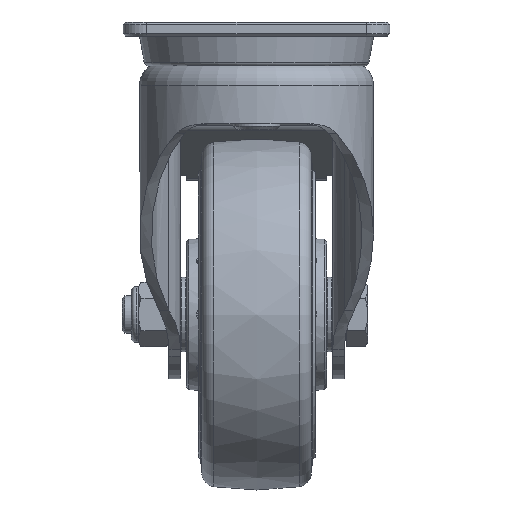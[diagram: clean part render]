
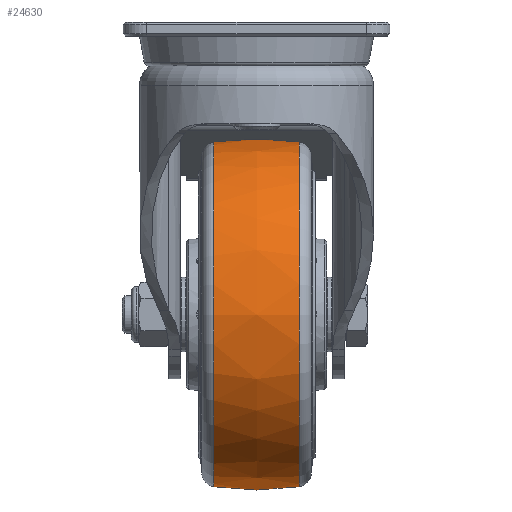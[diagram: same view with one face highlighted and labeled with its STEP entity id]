
A CAD part, left-side view. The second image highlights one B-rep face of the part: STEP entity #24630.
In plain terms, the highlighted free-form (B-spline) face has degree [2, 2] with [3, 9] control points.
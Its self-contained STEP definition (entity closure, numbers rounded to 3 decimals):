
#24=(
BOUNDED_SURFACE()
B_SPLINE_SURFACE(2,2,((#41724,#41725,#41726,#41727,#41728,#41729,#41730,
#41731,#41732),(#41733,#41734,#41735,#41736,#41737,#41738,#41739,#41740,
#41741),(#41742,#41743,#41744,#41745,#41746,#41747,#41748,#41749,#41750)),
 .UNSPECIFIED.,.F.,.T.,.F.)
B_SPLINE_SURFACE_WITH_KNOTS((3,3),(3,2,2,2,3),(-0.153,0.153),
(-3.142,-1.571,0.,1.571,3.142),
 .UNSPECIFIED.)
GEOMETRIC_REPRESENTATION_ITEM()
RATIONAL_B_SPLINE_SURFACE(((1.,0.707,1.,0.707,1.,
0.707,1.,0.707,1.),(0.988,0.699,
0.988,0.699,0.988,0.699,0.988,
0.699,0.988),(1.,0.707,1.,0.707,
1.,0.707,1.,0.707,1.)))
REPRESENTATION_ITEM('')
SURFACE()
);
#2440=CIRCLE('',#26361,73.595);
#2444=CIRCLE('',#26365,73.595);
#2445=CIRCLE('',#26366,120.);
#4178=FACE_OUTER_BOUND('',#5790,.T.);
#5790=EDGE_LOOP('',(#20001,#20002,#20003,#20004));
#10954=VERTEX_POINT('',#41717);
#10957=VERTEX_POINT('',#41751);
#14047=EDGE_CURVE('',#10954,#10954,#2440,.T.);
#14051=EDGE_CURVE('',#10957,#10957,#2444,.T.);
#14052=EDGE_CURVE('',#10957,#10954,#2445,.T.);
#20001=ORIENTED_EDGE('',*,*,#14051,.F.);
#20002=ORIENTED_EDGE('',*,*,#14052,.T.);
#20003=ORIENTED_EDGE('',*,*,#14047,.F.);
#20004=ORIENTED_EDGE('',*,*,#14052,.F.);
#24630=ADVANCED_FACE('',(#4178),#24,.F.);
#26361=AXIS2_PLACEMENT_3D('',#41718,#30584,#30585);
#26365=AXIS2_PLACEMENT_3D('',#41752,#30592,#30593);
#26366=AXIS2_PLACEMENT_3D('',#41753,#30594,#30595);
#30584=DIRECTION('center_axis',(0.,-1.,0.));
#30585=DIRECTION('ref_axis',(0.,0.,
-1.));
#30592=DIRECTION('center_axis',(0.,1.,0.));
#30593=DIRECTION('ref_axis',(0.,0.,
-1.));
#30594=DIRECTION('center_axis',(0.,0.,
-1.));
#30595=DIRECTION('ref_axis',(1.,0.,0.));
#41717=CARTESIAN_POINT('',(138.595,-18.309,-125.025));
#41718=CARTESIAN_POINT('Origin',(65.,-18.309,-125.025));
#41724=CARTESIAN_POINT('Ctrl Pts',(138.595,-18.309,-125.025));
#41725=CARTESIAN_POINT('Ctrl Pts',(138.595,-18.309,-198.62));
#41726=CARTESIAN_POINT('Ctrl Pts',(65.,-18.309,-198.62));
#41727=CARTESIAN_POINT('Ctrl Pts',(-8.595,-18.309,
-198.62));
#41728=CARTESIAN_POINT('Ctrl Pts',(-8.595,-18.309,
-125.025));
#41729=CARTESIAN_POINT('Ctrl Pts',(-8.595,-18.309,
-51.43));
#41730=CARTESIAN_POINT('Ctrl Pts',(65.,-18.309,-51.43));
#41731=CARTESIAN_POINT('Ctrl Pts',(138.595,-18.309,-51.43));
#41732=CARTESIAN_POINT('Ctrl Pts',(138.595,-18.309,-125.025));
#41733=CARTESIAN_POINT('Ctrl Pts',(141.422,0.,
-125.025));
#41734=CARTESIAN_POINT('Ctrl Pts',(141.422,0.,
-201.447));
#41735=CARTESIAN_POINT('Ctrl Pts',(65.,0.,-201.447));
#41736=CARTESIAN_POINT('Ctrl Pts',(-11.422,0.,
-201.447));
#41737=CARTESIAN_POINT('Ctrl Pts',(-11.422,0.,
-125.025));
#41738=CARTESIAN_POINT('Ctrl Pts',(-11.422,0.,
-48.603));
#41739=CARTESIAN_POINT('Ctrl Pts',(65.,0.,-48.603));
#41740=CARTESIAN_POINT('Ctrl Pts',(141.422,0.,
-48.603));
#41741=CARTESIAN_POINT('Ctrl Pts',(141.422,0.,
-125.025));
#41742=CARTESIAN_POINT('Ctrl Pts',(138.595,18.309,-125.025));
#41743=CARTESIAN_POINT('Ctrl Pts',(138.595,18.309,-198.62));
#41744=CARTESIAN_POINT('Ctrl Pts',(65.,18.309,-198.62));
#41745=CARTESIAN_POINT('Ctrl Pts',(-8.595,18.309,-198.62));
#41746=CARTESIAN_POINT('Ctrl Pts',(-8.595,18.309,-125.025));
#41747=CARTESIAN_POINT('Ctrl Pts',(-8.595,18.309,-51.43));
#41748=CARTESIAN_POINT('Ctrl Pts',(65.,18.309,-51.43));
#41749=CARTESIAN_POINT('Ctrl Pts',(138.595,18.309,-51.43));
#41750=CARTESIAN_POINT('Ctrl Pts',(138.595,18.309,-125.025));
#41751=CARTESIAN_POINT('',(138.595,18.309,-125.025));
#41752=CARTESIAN_POINT('Origin',(65.,18.309,-125.025));
#41753=CARTESIAN_POINT('Origin',(20.,0.,-125.025));
